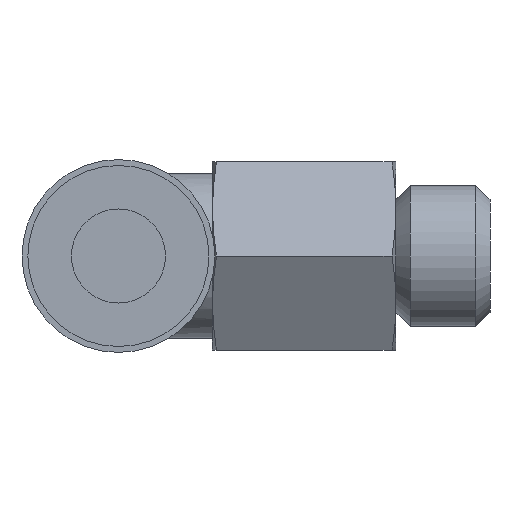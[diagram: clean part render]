
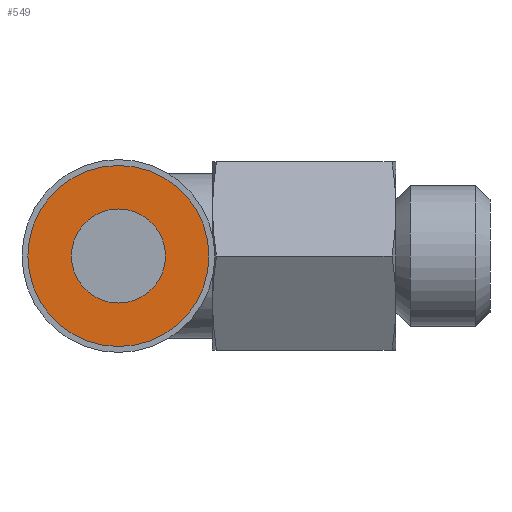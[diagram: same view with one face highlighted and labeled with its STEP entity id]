
A CAD part, left-side view. The second image highlights one B-rep face of the part: STEP entity #549.
In plain terms, the highlighted planar face has unit normal (-1, 0, 0).
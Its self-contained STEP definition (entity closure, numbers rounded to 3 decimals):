
#41=PLANE('',#627);
#191=ORIENTED_EDGE('',*,*,#276,.F.);
#192=ORIENTED_EDGE('',*,*,#277,.F.);
#276=EDGE_CURVE('',#325,#325,#360,.T.);
#277=EDGE_CURVE('',#326,#326,#361,.T.);
#325=VERTEX_POINT('',#1016);
#326=VERTEX_POINT('',#1018);
#360=CIRCLE('',#628,3.85);
#361=CIRCLE('',#629,2.);
#410=EDGE_LOOP('',(#191));
#411=EDGE_LOOP('',(#192));
#478=FACE_BOUND('',#410,.T.);
#479=FACE_BOUND('',#411,.T.);
#549=ADVANCED_FACE('',(#478,#479),#41,.F.);
#627=AXIS2_PLACEMENT_3D('',#1014,#763,#764);
#628=AXIS2_PLACEMENT_3D('',#1015,#765,#766);
#629=AXIS2_PLACEMENT_3D('',#1017,#767,#768);
#763=DIRECTION('',(1.,0.,0.));
#764=DIRECTION('',(0.,0.,-1.));
#765=DIRECTION('',(1.,0.,0.));
#766=DIRECTION('',(0.,0.,-1.));
#767=DIRECTION('',(-1.,0.,0.));
#768=DIRECTION('',(0.,1.,0.));
#1014=CARTESIAN_POINT('',(-15.4,11.8,0.));
#1015=CARTESIAN_POINT('',(-15.4,11.8,0.));
#1016=CARTESIAN_POINT('',(-15.4,11.8,-3.85));
#1017=CARTESIAN_POINT('',(-15.4,11.8,0.));
#1018=CARTESIAN_POINT('',(-15.4,13.8,0.));
